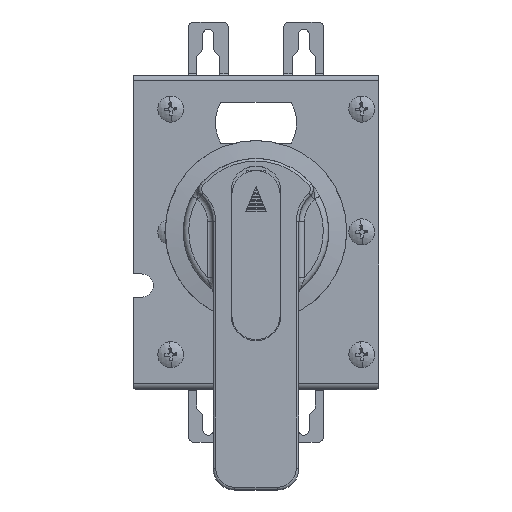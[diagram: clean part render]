
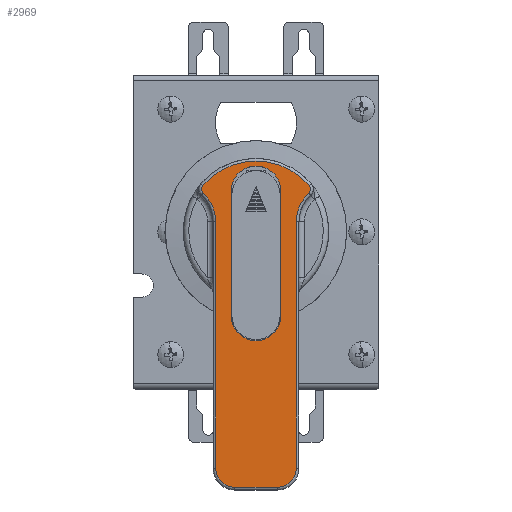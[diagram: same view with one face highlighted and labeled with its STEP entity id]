
A CAD part, top view. The second image highlights one B-rep face of the part: STEP entity #2969.
In plain terms, the highlighted planar face has unit normal (0, 0, 1).
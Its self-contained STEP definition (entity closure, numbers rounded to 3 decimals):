
#972=FACE_BOUND('',#6119,.T.);
#973=FACE_BOUND('',#6120,.T.);
#1716=PLANE('',#26469);
#2969=ADVANCED_FACE('',(#972,#973),#1716,.T.);
#6119=EDGE_LOOP('',(#16154,#16155,#16156,#16157,#16158,#16159,#16160,#16161,
#16162,#16163));
#6120=EDGE_LOOP('',(#16164,#16165,#16166,#16167));
#8057=LINE('',#45126,#10233);
#8177=LINE('',#63697,#10353);
#8182=LINE('',#63736,#10358);
#8183=LINE('',#63740,#10359);
#8184=LINE('',#63744,#10360);
#10233=VECTOR('',#31573,1.);
#10353=VECTOR('',#31907,1.);
#10358=VECTOR('',#31942,1.);
#10359=VECTOR('',#31945,1.);
#10360=VECTOR('',#31948,1.);
#16154=ORIENTED_EDGE('',*,*,#22773,.T.);
#16155=ORIENTED_EDGE('',*,*,#22985,.T.);
#16156=ORIENTED_EDGE('',*,*,#22987,.T.);
#16157=ORIENTED_EDGE('',*,*,#22988,.T.);
#16158=ORIENTED_EDGE('',*,*,#22780,.T.);
#16159=ORIENTED_EDGE('',*,*,#22989,.T.);
#16160=ORIENTED_EDGE('',*,*,#22783,.T.);
#16161=ORIENTED_EDGE('',*,*,#22769,.T.);
#16162=ORIENTED_EDGE('',*,*,#22766,.T.);
#16163=ORIENTED_EDGE('',*,*,#22974,.T.);
#16164=ORIENTED_EDGE('',*,*,#22990,.F.);
#16165=ORIENTED_EDGE('',*,*,#22991,.F.);
#16166=ORIENTED_EDGE('',*,*,#22992,.F.);
#16167=ORIENTED_EDGE('',*,*,#22993,.F.);
#19591=VERTEX_POINT('',#45114);
#19594=VERTEX_POINT('',#45119);
#19595=VERTEX_POINT('',#45123);
#19597=VERTEX_POINT('',#45129);
#19600=VERTEX_POINT('',#45134);
#19607=VERTEX_POINT('',#45208);
#19608=VERTEX_POINT('',#45210);
#19610=VERTEX_POINT('',#45216);
#19740=VERTEX_POINT('',#63729);
#19741=VERTEX_POINT('',#63734);
#19742=VERTEX_POINT('',#63738);
#19743=VERTEX_POINT('',#63739);
#19744=VERTEX_POINT('',#63741);
#19745=VERTEX_POINT('',#63743);
#22766=EDGE_CURVE('',#19591,#19594,#24534,.T.);
#22769=EDGE_CURVE('',#19595,#19591,#8057,.T.);
#22773=EDGE_CURVE('',#19597,#19600,#24539,.T.);
#22780=EDGE_CURVE('',#19608,#19607,#24545,.T.);
#22783=EDGE_CURVE('',#19610,#19595,#24548,.T.);
#22974=EDGE_CURVE('',#19594,#19597,#8177,.T.);
#22985=EDGE_CURVE('',#19600,#19740,#24591,.T.);
#22987=EDGE_CURVE('',#19740,#19741,#24593,.T.);
#22988=EDGE_CURVE('',#19741,#19608,#24594,.T.);
#22989=EDGE_CURVE('',#19607,#19610,#8182,.T.);
#22990=EDGE_CURVE('',#19742,#19743,#24595,.T.);
#22991=EDGE_CURVE('',#19744,#19742,#8183,.T.);
#22992=EDGE_CURVE('',#19745,#19744,#24596,.T.);
#22993=EDGE_CURVE('',#19743,#19745,#8184,.T.);
#24534=CIRCLE('',#26342,7.);
#24539=CIRCLE('',#26349,14.);
#24545=CIRCLE('',#26358,14.);
#24548=CIRCLE('',#26362,7.);
#24591=CIRCLE('',#26462,2.);
#24593=CIRCLE('',#26465,25.65);
#24594=CIRCLE('',#26466,2.);
#24595=CIRCLE('',#26467,9.1);
#24596=CIRCLE('',#26468,9.1);
#26342=AXIS2_PLACEMENT_3D('',#45120,#31566,#31567);
#26349=AXIS2_PLACEMENT_3D('',#45135,#31582,#31583);
#26358=AXIS2_PLACEMENT_3D('',#45209,#31600,#31601);
#26362=AXIS2_PLACEMENT_3D('',#45215,#31608,#31609);
#26462=AXIS2_PLACEMENT_3D('',#63730,#31932,#31933);
#26465=AXIS2_PLACEMENT_3D('',#63733,#31938,#31939);
#26466=AXIS2_PLACEMENT_3D('',#63735,#31940,#31941);
#26467=AXIS2_PLACEMENT_3D('',#63737,#31943,#31944);
#26468=AXIS2_PLACEMENT_3D('',#63742,#31946,#31947);
#26469=AXIS2_PLACEMENT_3D('',#63745,#31949,#31950);
#31566=DIRECTION('',(0.,0.,1.));
#31567=DIRECTION('',(-1.,0.,0.));
#31573=DIRECTION('',(1.,0.,0.));
#31582=DIRECTION('',(0.,0.,-1.));
#31583=DIRECTION('',(-1.,0.,0.));
#31600=DIRECTION('',(0.,0.,-1.));
#31601=DIRECTION('',(-1.,0.,0.));
#31608=DIRECTION('',(0.,0.,1.));
#31609=DIRECTION('',(-1.,0.,0.));
#31907=DIRECTION('',(0.,1.,0.));
#31932=DIRECTION('',(0.,0.,1.));
#31933=DIRECTION('',(-1.,0.,0.));
#31938=DIRECTION('',(0.,0.,1.));
#31939=DIRECTION('',(-1.,0.,0.));
#31940=DIRECTION('',(0.,0.,1.));
#31941=DIRECTION('',(-1.,0.,0.));
#31942=DIRECTION('',(0.,-1.,0.));
#31943=DIRECTION('',(0.,0.,1.));
#31944=DIRECTION('',(-1.,0.,0.));
#31945=DIRECTION('',(0.,1.,0.));
#31946=DIRECTION('',(0.,0.,1.));
#31947=DIRECTION('',(-1.,0.,0.));
#31948=DIRECTION('',(0.,-1.,0.));
#31949=DIRECTION('',(0.,0.,1.));
#31950=DIRECTION('',(-1.,0.,0.));
#45114=CARTESIAN_POINT('',(7.75,-93.85,167.301));
#45119=CARTESIAN_POINT('',(14.75,-86.85,167.301));
#45120=CARTESIAN_POINT('',(7.75,-86.85,167.301));
#45123=CARTESIAN_POINT('',(-7.75,-93.85,167.301));
#45126=CARTESIAN_POINT('',(7.75,-93.85,167.301));
#45129=CARTESIAN_POINT('',(14.75,3.49,167.301));
#45134=CARTESIAN_POINT('',(19.344,13.859,167.301));
#45135=CARTESIAN_POINT('',(28.75,3.49,167.301));
#45208=CARTESIAN_POINT('',(-14.75,3.49,167.301));
#45209=CARTESIAN_POINT('',(-28.75,3.49,167.301));
#45210=CARTESIAN_POINT('',(-19.344,13.859,167.301));
#45215=CARTESIAN_POINT('',(-7.75,-86.85,167.301));
#45216=CARTESIAN_POINT('',(-14.75,-86.85,167.301));
#63697=CARTESIAN_POINT('',(14.75,3.49,167.301));
#63729=CARTESIAN_POINT('',(19.522,16.637,167.301));
#63730=CARTESIAN_POINT('',(18.,15.34,167.301));
#63733=CARTESIAN_POINT('',(0.,0.,167.301));
#63734=CARTESIAN_POINT('',(-19.522,16.637,167.301));
#63735=CARTESIAN_POINT('',(-18.,15.34,167.301));
#63736=CARTESIAN_POINT('',(-14.75,-86.85,167.301));
#63737=CARTESIAN_POINT('',(0.,14.75,167.301));
#63738=CARTESIAN_POINT('',(9.1,14.75,167.301));
#63739=CARTESIAN_POINT('',(-9.1,14.75,167.301));
#63740=CARTESIAN_POINT('',(9.1,14.75,167.301));
#63741=CARTESIAN_POINT('',(9.1,-31.05,167.301));
#63742=CARTESIAN_POINT('',(0.,-31.05,167.301));
#63743=CARTESIAN_POINT('',(-9.1,-31.05,167.301));
#63744=CARTESIAN_POINT('',(-9.1,14.75,167.301));
#63745=CARTESIAN_POINT('',(0.,0.,167.301));
